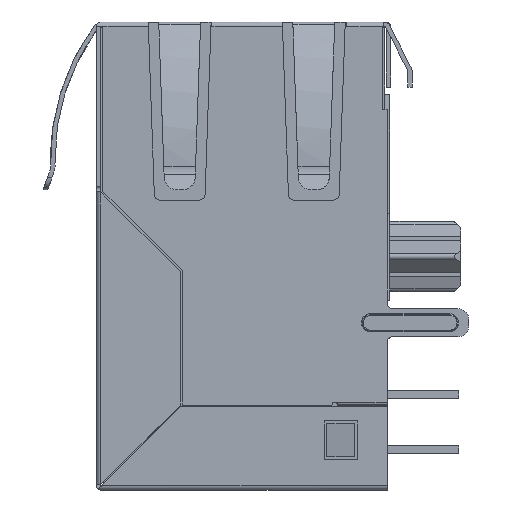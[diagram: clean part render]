
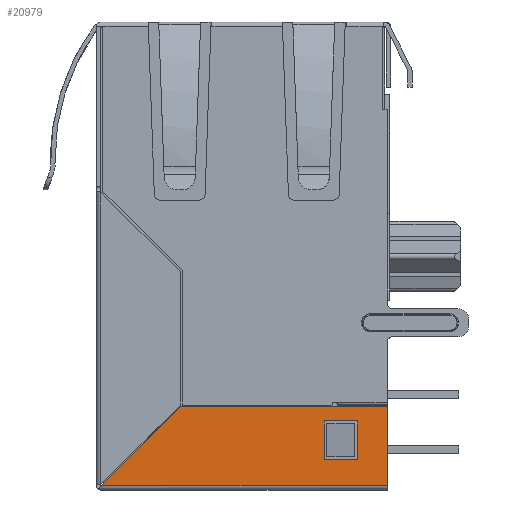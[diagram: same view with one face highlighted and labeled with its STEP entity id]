
A CAD part, left-side view. The second image highlights one B-rep face of the part: STEP entity #20979.
In plain terms, the highlighted planar face has unit normal (-1, 0, 0).
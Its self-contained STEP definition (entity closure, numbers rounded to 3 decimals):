
#617 = EDGE_CURVE ( 'NONE', #17617, #18051, #6693, .T. ) ;
#1058 = CARTESIAN_POINT ( 'NONE',  ( -8.014, 6.491, -17.445 ) ) ;
#1326 = CARTESIAN_POINT ( 'NONE',  ( -8.014, -6.642, -21.082 ) ) ;
#1413 = CARTESIAN_POINT ( 'NONE',  ( -8.014, -3.737, -19.886 ) ) ;
#1558 = VECTOR ( 'NONE', #18020, 1000. ) ;
#1832 = VECTOR ( 'NONE', #8031, 1000. ) ;
#2859 = LINE ( 'NONE', #24231, #10183 ) ;
#3038 = DIRECTION ( 'NONE',  ( 0., 0., 1. ) ) ;
#3111 = AXIS2_PLACEMENT_3D ( 'NONE', #1058, #14688, #3038 ) ;
#3639 = ORIENTED_EDGE ( 'NONE', *, *, #8814, .T. ) ;
#3981 = DIRECTION ( 'NONE',  ( 0., 0.707, -0.707 ) ) ;
#4125 = VECTOR ( 'NONE', #14903, 1000. ) ;
#4302 = EDGE_CURVE ( 'NONE', #24424, #5912, #10317, .T. ) ;
#4819 = EDGE_LOOP ( 'NONE', ( #13695, #24204, #21848, #22544 ) ) ;
#5209 = CARTESIAN_POINT ( 'NONE',  ( -8.014, 6.491, -21.082 ) ) ;
#5912 = VERTEX_POINT ( 'NONE', #7184 ) ;
#6670 = EDGE_CURVE ( 'NONE', #14346, #18267, #2859, .T. ) ;
#6693 = LINE ( 'NONE', #19533, #17033 ) ;
#7029 = LINE ( 'NONE', #25289, #1832 ) ;
#7184 = CARTESIAN_POINT ( 'NONE',  ( -8.014, -5.261, -19.886 ) ) ;
#7589 = ORIENTED_EDGE ( 'NONE', *, *, #617, .T. ) ;
#8031 = DIRECTION ( 'NONE',  ( 0., -1., 0. ) ) ;
#8100 = FACE_OUTER_BOUND ( 'NONE', #8215, .T. ) ;
#8215 = EDGE_LOOP ( 'NONE', ( #7589, #9833, #3639, #9996 ) ) ;
#8236 = CARTESIAN_POINT ( 'NONE',  ( -8.014, 6.491, -19.886 ) ) ;
#8355 = VERTEX_POINT ( 'NONE', #1326 ) ;
#8814 = EDGE_CURVE ( 'NONE', #8355, #24157, #16458, .T. ) ;
#9220 = CARTESIAN_POINT ( 'NONE',  ( -8.014, -3.737, -18.108 ) ) ;
#9833 = ORIENTED_EDGE ( 'NONE', *, *, #17411, .T. ) ;
#9996 = ORIENTED_EDGE ( 'NONE', *, *, #16611, .T. ) ;
#10183 = VECTOR ( 'NONE', #12675, 1000. ) ;
#10317 = LINE ( 'NONE', #14804, #20668 ) ;
#11295 = VECTOR ( 'NONE', #20880, 1000. ) ;
#12675 = DIRECTION ( 'NONE',  ( 0., 0., 1. ) ) ;
#12962 = CARTESIAN_POINT ( 'NONE',  ( -8.014, 6.491, -21.082 ) ) ;
#13580 = DIRECTION ( 'NONE',  ( 0., 1., 0. ) ) ;
#13695 = ORIENTED_EDGE ( 'NONE', *, *, #6670, .T. ) ;
#14346 = VERTEX_POINT ( 'NONE', #1413 ) ;
#14454 = LINE ( 'NONE', #12962, #4125 ) ;
#14688 = DIRECTION ( 'NONE',  ( -1., 0., 0. ) ) ;
#14804 = CARTESIAN_POINT ( 'NONE',  ( -8.014, -5.261, -17.445 ) ) ;
#14903 = DIRECTION ( 'NONE',  ( 0., -1., 0. ) ) ;
#16238 = EDGE_CURVE ( 'NONE', #5912, #14346, #21662, .T. ) ;
#16458 = LINE ( 'NONE', #16977, #11295 ) ;
#16611 = EDGE_CURVE ( 'NONE', #24157, #17617, #19112, .T. ) ;
#16694 = DIRECTION ( 'NONE',  ( 0., 0., -1. ) ) ;
#16977 = CARTESIAN_POINT ( 'NONE',  ( -8.014, -6.642, -21.285 ) ) ;
#17033 = VECTOR ( 'NONE', #3981, 1000. ) ;
#17411 = EDGE_CURVE ( 'NONE', #18051, #8355, #14454, .T. ) ;
#17617 = VERTEX_POINT ( 'NONE', #21463 ) ;
#18020 = DIRECTION ( 'NONE',  ( 0., 1., 0. ) ) ;
#18051 = VERTEX_POINT ( 'NONE', #5209 ) ;
#18267 = VERTEX_POINT ( 'NONE', #9220 ) ;
#19112 = LINE ( 'NONE', #23278, #23685 ) ;
#19533 = CARTESIAN_POINT ( 'NONE',  ( -8.014, 2.853, -17.445 ) ) ;
#20048 = EDGE_CURVE ( 'NONE', #18267, #24424, #7029, .T. ) ;
#20668 = VECTOR ( 'NONE', #16694, 1000. ) ;
#20709 = CARTESIAN_POINT ( 'NONE',  ( -8.014, -6.642, -17.445 ) ) ;
#20880 = DIRECTION ( 'NONE',  ( 0., 0., 1. ) ) ;
#20979 = ADVANCED_FACE ( 'NONE', ( #8100, #23006 ), #24301, .T. ) ;
#21463 = CARTESIAN_POINT ( 'NONE',  ( -8.014, 2.853, -17.445 ) ) ;
#21629 = CARTESIAN_POINT ( 'NONE',  ( -8.014, -5.261, -18.108 ) ) ;
#21662 = LINE ( 'NONE', #8236, #1558 ) ;
#21848 = ORIENTED_EDGE ( 'NONE', *, *, #4302, .T. ) ;
#22544 = ORIENTED_EDGE ( 'NONE', *, *, #16238, .T. ) ;
#23006 = FACE_BOUND ( 'NONE', #4819, .T. ) ;
#23278 = CARTESIAN_POINT ( 'NONE',  ( -8.014, 6.491, -17.445 ) ) ;
#23685 = VECTOR ( 'NONE', #13580, 1000. ) ;
#24157 = VERTEX_POINT ( 'NONE', #20709 ) ;
#24204 = ORIENTED_EDGE ( 'NONE', *, *, #20048, .T. ) ;
#24231 = CARTESIAN_POINT ( 'NONE',  ( -8.014, -3.737, -17.445 ) ) ;
#24301 = PLANE ( 'NONE',  #3111 ) ;
#24424 = VERTEX_POINT ( 'NONE', #21629 ) ;
#25289 = CARTESIAN_POINT ( 'NONE',  ( -8.014, 6.491, -18.108 ) ) ;
